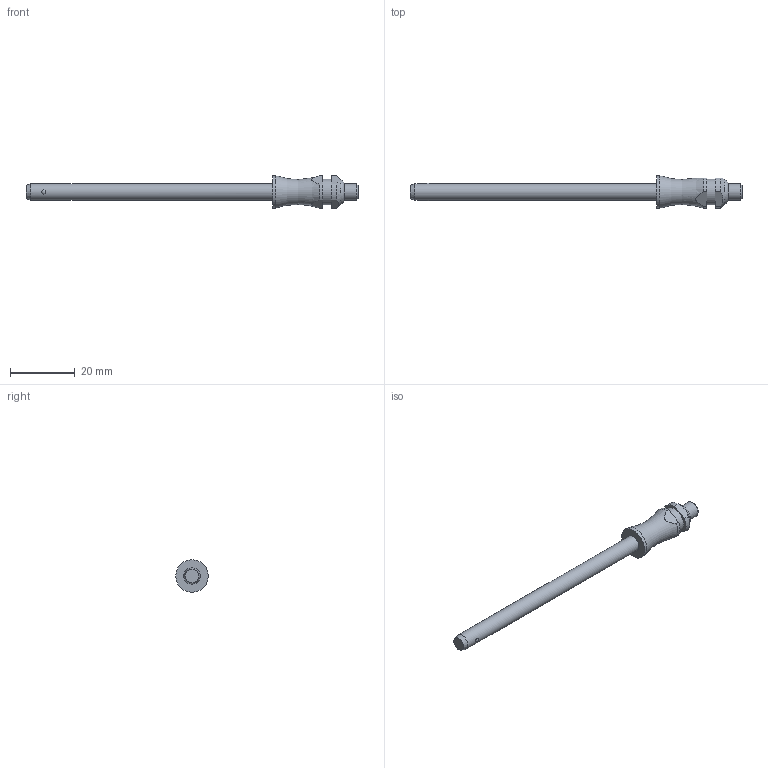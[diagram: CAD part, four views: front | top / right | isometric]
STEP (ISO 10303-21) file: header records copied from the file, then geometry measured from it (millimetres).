
FILE_DESCRIPTION( ( 'STEP AP203' ), '1' );
FILE_NAME( 'C:/Temp/Ganter_Step_05_03_2020/data/3_1/gn113_3/Stainless Steel-Ball lock pin GN 113.3-5-70 (deactivated).stp', '2020-03-12T08:18:13', ( 'License CC BY-ND 4.0' ), ( 'CADENAS' ), ' ', 'PARTsolutions', ' ' );
FILE_SCHEMA( ( 'CONFIG_CONTROL_DESIGN' ) );
Length unit declared in the file: millimetre
Products named in the file (1): _Stainless Steel-Ball lock pin GN 113.3-5-70 (deactivated)
Bounding box: 102.3 x 10 x 10 mm (x, y, z)
Volume: 2828.8 mm3; surface area: 2013.3 mm2
Topology: 1 solids, 1 shells, 29 faces, 61 edges, 40 vertices
Faces by surface type: plane 12, cylinder 10, cone 3, torus 2, sphere 2
Full cylindrical faces by diameter (mm): 5 x2, 7.9 x1, 10 x1
Entity records: 902 total; most frequent: CARTESIAN_POINT 272, DIRECTION 126, ORIENTED_EDGE 100, AXIS2_PLACEMENT_3D 54, EDGE_CURVE 50, EDGE_LOOP 44, VERTEX_POINT 38, FACE_OUTER_BOUND 35
